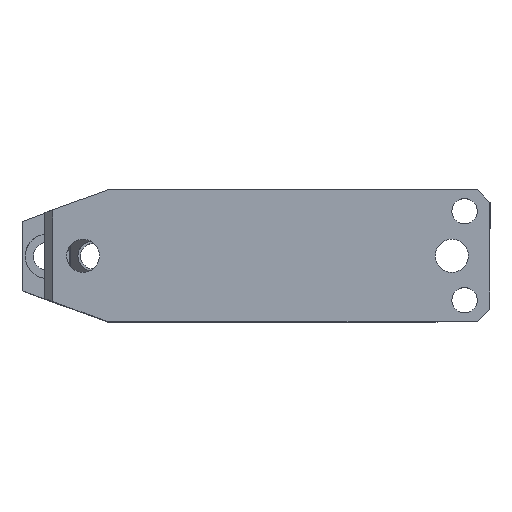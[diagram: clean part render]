
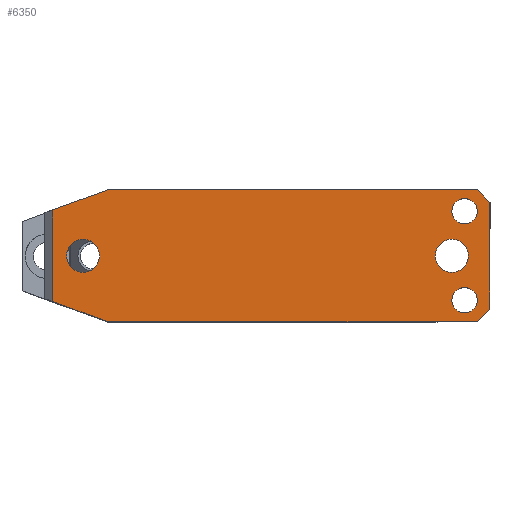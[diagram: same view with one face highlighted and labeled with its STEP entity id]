
A CAD part, top view. The second image highlights one B-rep face of the part: STEP entity #6350.
In plain terms, the highlighted planar face has unit normal (0, 0, 1).
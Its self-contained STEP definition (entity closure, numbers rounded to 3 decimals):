
#149 = CARTESIAN_POINT ( 'NONE',  ( 179., 26., 125. ) ) ;
#336 = VERTEX_POINT ( 'NONE', #3512 ) ;
#390 = VECTOR ( 'NONE', #1585, 1000. ) ;
#765 = DIRECTION ( 'NONE',  ( -1., 0., 0. ) ) ;
#922 = CARTESIAN_POINT ( 'NONE',  ( 9., 26., 125. ) ) ;
#986 = ORIENTED_EDGE ( 'NONE', *, *, #4731, .T. ) ;
#1100 = EDGE_LOOP ( 'NONE', ( #3902, #1763 ) ) ;
#1124 = CARTESIAN_POINT ( 'NONE',  ( 169., 0., 125. ) ) ;
#1154 = ORIENTED_EDGE ( 'NONE', *, *, #9173, .T. ) ;
#1230 = AXIS2_PLACEMENT_3D ( 'NONE', #9601, #4285, #10501 ) ;
#1239 = AXIS2_PLACEMENT_3D ( 'NONE', #11419, #6090, #765 ) ;
#1415 = CIRCLE ( 'NONE', #4269, 6.5 ) ;
#1466 = CARTESIAN_POINT ( 'NONE',  ( 179., 26., 125. ) ) ;
#1481 = VECTOR ( 'NONE', #9725, 1000. ) ;
#1585 = DIRECTION ( 'NONE',  ( -0.94, 0.342, 0. ) ) ;
#1657 = EDGE_CURVE ( 'NONE', #5880, #6491, #1415, .T. ) ;
#1679 = FACE_BOUND ( 'NONE', #4965, .T. ) ;
#1722 = DIRECTION ( 'NONE',  ( 0.94, 0.342, 0. ) ) ;
#1763 = ORIENTED_EDGE ( 'NONE', *, *, #1657, .T. ) ;
#1804 = EDGE_CURVE ( 'NONE', #6491, #5880, #7094, .T. ) ;
#1871 = EDGE_CURVE ( 'NONE', #9249, #5696, #3909, .T. ) ;
#1892 = ORIENTED_EDGE ( 'NONE', *, *, #5234, .F. ) ;
#2027 = DIRECTION ( 'NONE',  ( -1., 0., 0. ) ) ;
#2050 = LINE ( 'NONE', #7209, #8858 ) ;
#2163 = ORIENTED_EDGE ( 'NONE', *, *, #4345, .F. ) ;
#2375 = CARTESIAN_POINT ( 'NONE',  ( 34., 26., 125. ) ) ;
#2787 = DIRECTION ( 'NONE',  ( 0., -1., 0. ) ) ;
#2847 = DIRECTION ( 'NONE',  ( 0., 0., -1. ) ) ;
#2865 = CARTESIAN_POINT ( 'NONE',  ( 184., 21., 125. ) ) ;
#2921 = CARTESIAN_POINT ( 'NONE',  ( 9., -26., 125. ) ) ;
#2974 = VERTEX_POINT ( 'NONE', #4468 ) ;
#2997 = LINE ( 'NONE', #8051, #5082 ) ;
#3022 = LINE ( 'NONE', #4225, #390 ) ;
#3163 = DIRECTION ( 'NONE',  ( 0., 0., -1. ) ) ;
#3347 = DIRECTION ( 'NONE',  ( -1., 0., 0. ) ) ;
#3447 = AXIS2_PLACEMENT_3D ( 'NONE', #8476, #3163, #9378 ) ;
#3451 = EDGE_CURVE ( 'NONE', #336, #10105, #9705, .T. ) ;
#3512 = CARTESIAN_POINT ( 'NONE',  ( 179., -17.5, 125. ) ) ;
#3554 = CARTESIAN_POINT ( 'NONE',  ( 169., 17.5, 125. ) ) ;
#3559 = LINE ( 'NONE', #11526, #1481 ) ;
#3563 = LINE ( 'NONE', #922, #10384 ) ;
#3600 = CARTESIAN_POINT ( 'NONE',  ( 162.5, 0., 125. ) ) ;
#3617 = DIRECTION ( 'NONE',  ( -0.707, -0.707, 0. ) ) ;
#3705 = VERTEX_POINT ( 'NONE', #2375 ) ;
#3722 = ORIENTED_EDGE ( 'NONE', *, *, #3962, .F. ) ;
#3754 = FACE_OUTER_BOUND ( 'NONE', #7867, .T. ) ;
#3775 = VERTEX_POINT ( 'NONE', #5129 ) ;
#3902 = ORIENTED_EDGE ( 'NONE', *, *, #1804, .T. ) ;
#3909 = CIRCLE ( 'NONE', #3447, 5. ) ;
#3937 = DIRECTION ( 'NONE',  ( 0., 0., -1. ) ) ;
#3962 = EDGE_CURVE ( 'NONE', #7088, #7691, #2050, .T. ) ;
#4225 = CARTESIAN_POINT ( 'NONE',  ( 9., -16.901, 125. ) ) ;
#4269 = AXIS2_PLACEMENT_3D ( 'NONE', #8168, #2847, #9067 ) ;
#4285 = DIRECTION ( 'NONE',  ( 0., 0., -1. ) ) ;
#4344 = CIRCLE ( 'NONE', #1230, 6.5 ) ;
#4345 = EDGE_CURVE ( 'NONE', #7824, #6783, #3022, .T. ) ;
#4392 = EDGE_CURVE ( 'NONE', #10105, #336, #4832, .T. ) ;
#4468 = CARTESIAN_POINT ( 'NONE',  ( 179., -26., 125. ) ) ;
#4626 = DIRECTION ( 'NONE',  ( 0., 0., -1. ) ) ;
#4731 = EDGE_CURVE ( 'NONE', #6996, #5108, #8020, .T. ) ;
#4832 = CIRCLE ( 'NONE', #1239, 5. ) ;
#4843 = CARTESIAN_POINT ( 'NONE',  ( 174., 17.5, 125. ) ) ;
#4965 = EDGE_LOOP ( 'NONE', ( #10786, #11123 ) ) ;
#5082 = VECTOR ( 'NONE', #3617, 1000. ) ;
#5108 = VERTEX_POINT ( 'NONE', #9625 ) ;
#5129 = CARTESIAN_POINT ( 'NONE',  ( 12., 17.993, 125. ) ) ;
#5234 = EDGE_CURVE ( 'NONE', #3705, #9893, #3563, .T. ) ;
#5572 = CARTESIAN_POINT ( 'NONE',  ( 30.5, 0., 125. ) ) ;
#5696 = VERTEX_POINT ( 'NONE', #3554 ) ;
#5744 = DIRECTION ( 'NONE',  ( -1., 0., 0. ) ) ;
#5798 = ORIENTED_EDGE ( 'NONE', *, *, #9237, .F. ) ;
#5880 = VERTEX_POINT ( 'NONE', #5572 ) ;
#6090 = DIRECTION ( 'NONE',  ( 0., 0., -1. ) ) ;
#6119 = FACE_BOUND ( 'NONE', #7173, .T. ) ;
#6246 = DIRECTION ( 'NONE',  ( 1., 0., 0. ) ) ;
#6350 = ADVANCED_FACE ( 'NONE', ( #10846, #1679, #6683, #6119, #3754 ), #9495, .F. ) ;
#6491 = VERTEX_POINT ( 'NONE', #8899 ) ;
#6563 = EDGE_LOOP ( 'NONE', ( #11379, #7626 ) ) ;
#6658 = CIRCLE ( 'NONE', #6780, 5. ) ;
#6683 = FACE_BOUND ( 'NONE', #1100, .T. ) ;
#6780 = AXIS2_PLACEMENT_3D ( 'NONE', #4843, #11069, #5744 ) ;
#6783 = VERTEX_POINT ( 'NONE', #11280 ) ;
#6876 = CARTESIAN_POINT ( 'NONE',  ( 9., 26., 125. ) ) ;
#6977 = CARTESIAN_POINT ( 'NONE',  ( 9., 16.901, 125. ) ) ;
#6996 = VERTEX_POINT ( 'NONE', #3600 ) ;
#7088 = VERTEX_POINT ( 'NONE', #2865 ) ;
#7094 = CIRCLE ( 'NONE', #10823, 6.5 ) ;
#7173 = EDGE_LOOP ( 'NONE', ( #986, #7817 ) ) ;
#7186 = CARTESIAN_POINT ( 'NONE',  ( 179., 17.5, 125. ) ) ;
#7209 = CARTESIAN_POINT ( 'NONE',  ( 184., 26., 125. ) ) ;
#7210 = EDGE_CURVE ( 'NONE', #5696, #9249, #6658, .T. ) ;
#7332 = DIRECTION ( 'NONE',  ( 0., 0., -1. ) ) ;
#7409 = VECTOR ( 'NONE', #7665, 1000. ) ;
#7473 = AXIS2_PLACEMENT_3D ( 'NONE', #9945, #4626, #10849 ) ;
#7626 = ORIENTED_EDGE ( 'NONE', *, *, #3451, .T. ) ;
#7665 = DIRECTION ( 'NONE',  ( 0.707, -0.707, 0. ) ) ;
#7673 = VECTOR ( 'NONE', #9144, 1000. ) ;
#7691 = VERTEX_POINT ( 'NONE', #10675 ) ;
#7817 = ORIENTED_EDGE ( 'NONE', *, *, #11397, .T. ) ;
#7824 = VERTEX_POINT ( 'NONE', #10900 ) ;
#7830 = ORIENTED_EDGE ( 'NONE', *, *, #11051, .T. ) ;
#7867 = EDGE_LOOP ( 'NONE', ( #9638, #1154, #2163, #7830, #5798, #3722, #11530, #1892 ) ) ;
#7942 = VECTOR ( 'NONE', #1722, 1000. ) ;
#8020 = CIRCLE ( 'NONE', #8752, 6.5 ) ;
#8051 = CARTESIAN_POINT ( 'NONE',  ( 179., -26., 125. ) ) ;
#8168 = CARTESIAN_POINT ( 'NONE',  ( 24., 0., 125. ) ) ;
#8476 = CARTESIAN_POINT ( 'NONE',  ( 174., 17.5, 125. ) ) ;
#8668 = DIRECTION ( 'NONE',  ( 0., 0., -1. ) ) ;
#8752 = AXIS2_PLACEMENT_3D ( 'NONE', #1124, #7332, #2027 ) ;
#8855 = AXIS2_PLACEMENT_3D ( 'NONE', #6876, #8668, #3347 ) ;
#8858 = VECTOR ( 'NONE', #2787, 1000. ) ;
#8899 = CARTESIAN_POINT ( 'NONE',  ( 17.5, 0., 125. ) ) ;
#9067 = DIRECTION ( 'NONE',  ( -1., 0., 0. ) ) ;
#9144 = DIRECTION ( 'NONE',  ( 1., 0., 0. ) ) ;
#9173 = EDGE_CURVE ( 'NONE', #3775, #6783, #3559, .T. ) ;
#9219 = LINE ( 'NONE', #1466, #7409 ) ;
#9237 = EDGE_CURVE ( 'NONE', #7691, #2974, #2997, .T. ) ;
#9249 = VERTEX_POINT ( 'NONE', #7186 ) ;
#9264 = CARTESIAN_POINT ( 'NONE',  ( 24., 0., 125. ) ) ;
#9378 = DIRECTION ( 'NONE',  ( -1., 0., 0. ) ) ;
#9495 = PLANE ( 'NONE',  #8855 ) ;
#9601 = CARTESIAN_POINT ( 'NONE',  ( 169., 0., 125. ) ) ;
#9625 = CARTESIAN_POINT ( 'NONE',  ( 175.5, 0., 125. ) ) ;
#9638 = ORIENTED_EDGE ( 'NONE', *, *, #11458, .F. ) ;
#9705 = CIRCLE ( 'NONE', #7473, 5. ) ;
#9725 = DIRECTION ( 'NONE',  ( 0., -1., 0. ) ) ;
#9761 = LINE ( 'NONE', #2921, #7673 ) ;
#9893 = VERTEX_POINT ( 'NONE', #149 ) ;
#9945 = CARTESIAN_POINT ( 'NONE',  ( 174., -17.5, 125. ) ) ;
#10105 = VERTEX_POINT ( 'NONE', #11313 ) ;
#10144 = DIRECTION ( 'NONE',  ( -1., 0., 0. ) ) ;
#10311 = LINE ( 'NONE', #6977, #7942 ) ;
#10384 = VECTOR ( 'NONE', #6246, 1000. ) ;
#10501 = DIRECTION ( 'NONE',  ( -1., 0., 0. ) ) ;
#10675 = CARTESIAN_POINT ( 'NONE',  ( 184., -21., 125. ) ) ;
#10676 = EDGE_CURVE ( 'NONE', #9893, #7088, #9219, .T. ) ;
#10786 = ORIENTED_EDGE ( 'NONE', *, *, #7210, .T. ) ;
#10823 = AXIS2_PLACEMENT_3D ( 'NONE', #9264, #3937, #10144 ) ;
#10846 = FACE_BOUND ( 'NONE', #6563, .T. ) ;
#10849 = DIRECTION ( 'NONE',  ( -1., 0., 0. ) ) ;
#10900 = CARTESIAN_POINT ( 'NONE',  ( 34., -26., 125. ) ) ;
#11051 = EDGE_CURVE ( 'NONE', #7824, #2974, #9761, .T. ) ;
#11069 = DIRECTION ( 'NONE',  ( 0., 0., -1. ) ) ;
#11123 = ORIENTED_EDGE ( 'NONE', *, *, #1871, .T. ) ;
#11280 = CARTESIAN_POINT ( 'NONE',  ( 12., -17.993, 125. ) ) ;
#11313 = CARTESIAN_POINT ( 'NONE',  ( 169., -17.5, 125. ) ) ;
#11379 = ORIENTED_EDGE ( 'NONE', *, *, #4392, .T. ) ;
#11397 = EDGE_CURVE ( 'NONE', #5108, #6996, #4344, .T. ) ;
#11419 = CARTESIAN_POINT ( 'NONE',  ( 174., -17.5, 125. ) ) ;
#11458 = EDGE_CURVE ( 'NONE', #3775, #3705, #10311, .T. ) ;
#11526 = CARTESIAN_POINT ( 'NONE',  ( 12., 26., 125. ) ) ;
#11530 = ORIENTED_EDGE ( 'NONE', *, *, #10676, .F. ) ;
